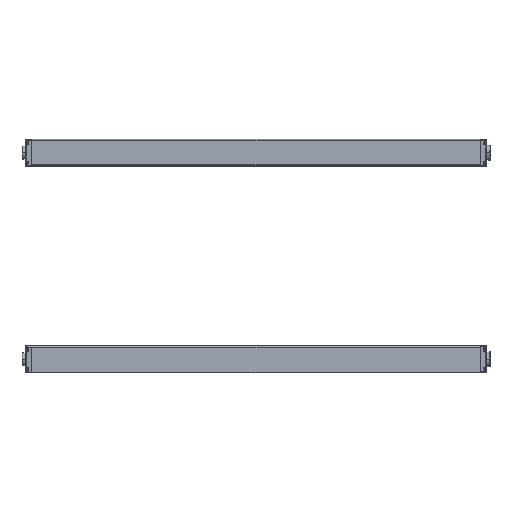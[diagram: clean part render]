
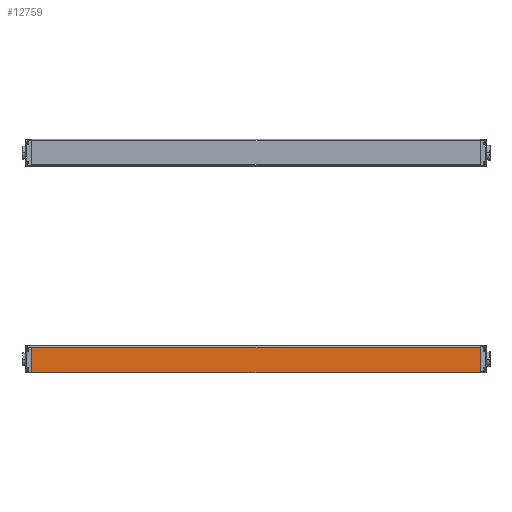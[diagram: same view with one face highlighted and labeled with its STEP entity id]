
A CAD part, left-side view. The second image highlights one B-rep face of the part: STEP entity #12759.
In plain terms, the highlighted planar face has unit normal (-1, 0, -0.009) as drawn and (1, 0, 0) by its records, which use the part's own axes.
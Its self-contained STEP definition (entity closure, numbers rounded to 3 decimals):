
#9 = CARTESIAN_POINT ( 'NONE',  ( 15., 0., -16.9 ) ) ;
#526 = CARTESIAN_POINT ( 'NONE',  ( 15., 0., 10.9 ) ) ;
#653 = DIRECTION ( 'NONE',  ( 0., 0., -1. ) ) ;
#984 = EDGE_CURVE ( 'NONE', #1566, #1437, #12486, .T. ) ;
#1437 = VERTEX_POINT ( 'NONE', #13823 ) ;
#1566 = VERTEX_POINT ( 'NONE', #526 ) ;
#2551 = DIRECTION ( 'NONE',  ( -1., 0., 0. ) ) ;
#3474 = VECTOR ( 'NONE', #15754, 1000. ) ;
#3528 = ORIENTED_EDGE ( 'NONE', *, *, #8616, .F. ) ;
#3912 = FACE_OUTER_BOUND ( 'NONE', #15056, .T. ) ;
#4413 = VECTOR ( 'NONE', #5565, 1000. ) ;
#5565 = DIRECTION ( 'NONE',  ( 0., 0., -1. ) ) ;
#6035 = LINE ( 'NONE', #10225, #3474 ) ;
#6381 = LINE ( 'NONE', #11921, #12843 ) ;
#7077 = EDGE_CURVE ( 'NONE', #11358, #1566, #6035, .T. ) ;
#7598 = LINE ( 'NONE', #13116, #10114 ) ;
#8136 = DIRECTION ( 'NONE',  ( 0., 0., 1. ) ) ;
#8616 = EDGE_CURVE ( 'NONE', #11358, #11942, #7598, .T. ) ;
#8810 = AXIS2_PLACEMENT_3D ( 'NONE', #15022, #2551, #8136 ) ;
#9484 = PLANE ( 'NONE',  #8810 ) ;
#10114 = VECTOR ( 'NONE', #653, 1000. ) ;
#10225 = CARTESIAN_POINT ( 'NONE',  ( 15., 500., 10.9 ) ) ;
#10843 = ORIENTED_EDGE ( 'NONE', *, *, #7077, .T. ) ;
#11358 = VERTEX_POINT ( 'NONE', #11701 ) ;
#11701 = CARTESIAN_POINT ( 'NONE',  ( 15., 500., 10.9 ) ) ;
#11921 = CARTESIAN_POINT ( 'NONE',  ( 15., 500., -16.693 ) ) ;
#11942 = VERTEX_POINT ( 'NONE', #13675 ) ;
#12162 = ORIENTED_EDGE ( 'NONE', *, *, #14393, .T. ) ;
#12486 = LINE ( 'NONE', #9, #4413 ) ;
#12759 = ADVANCED_FACE ( 'NONE', ( #3912 ), #9484, .F. ) ;
#12843 = VECTOR ( 'NONE', #17458, 1000. ) ;
#13116 = CARTESIAN_POINT ( 'NONE',  ( 15., 500., -16.9 ) ) ;
#13675 = CARTESIAN_POINT ( 'NONE',  ( 15., 500., -16.693 ) ) ;
#13823 = CARTESIAN_POINT ( 'NONE',  ( 15., 0., -16.693 ) ) ;
#14393 = EDGE_CURVE ( 'NONE', #1437, #11942, #6381, .T. ) ;
#15022 = CARTESIAN_POINT ( 'NONE',  ( 15., 500., -16.9 ) ) ;
#15056 = EDGE_LOOP ( 'NONE', ( #15790, #12162, #3528, #10843 ) ) ;
#15754 = DIRECTION ( 'NONE',  ( 0., -1., 0. ) ) ;
#15790 = ORIENTED_EDGE ( 'NONE', *, *, #984, .T. ) ;
#17458 = DIRECTION ( 'NONE',  ( 0., 1., 0. ) ) ;
